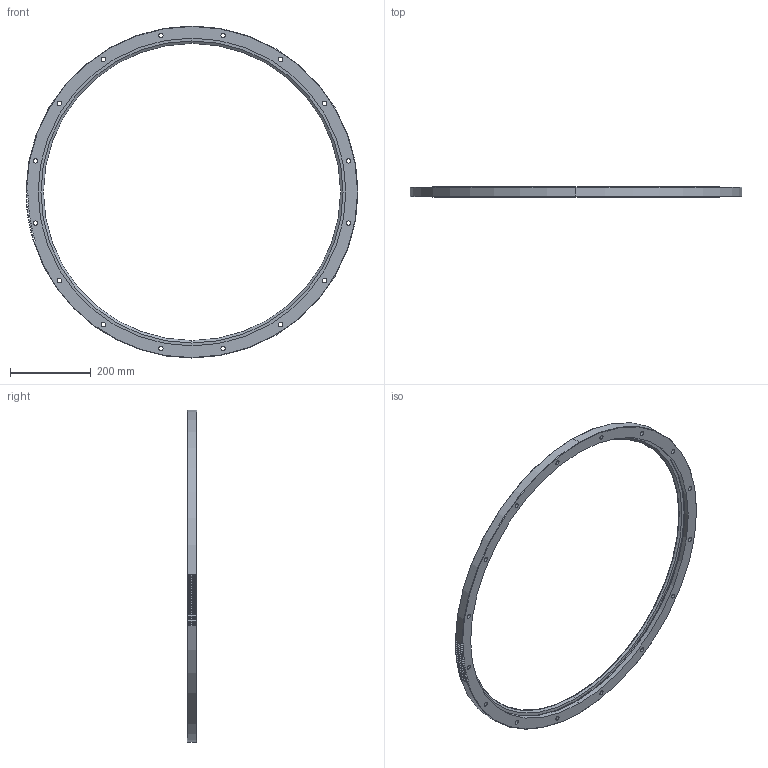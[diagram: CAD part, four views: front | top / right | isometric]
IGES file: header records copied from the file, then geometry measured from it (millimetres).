
Start section: 3D InterOp IGES (v. 2020 1.0.1), Spatial Corp. Copyright (c) 1999-2017.
Global section: file name: ril_820_r360_p.igs; native system: Spatial Corp.; preprocessor: 3D InterOp ACIS/IGES; author: TraceParts; organization: TraceParts S.A.; date: 20220624.063448; units: millimetre
Bounding box: 820 x 24 x 820 mm (x, y, z)
Surface area: 331177.3 mm2 (no closed solid volume)
Topology: 0 solids, 0 shells, 247 faces, 1342 edges, 1342 vertices
Faces by surface type: revolution 125, extrusion 122
